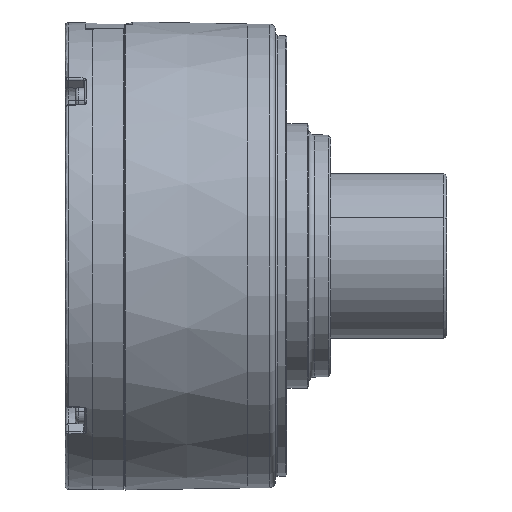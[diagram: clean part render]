
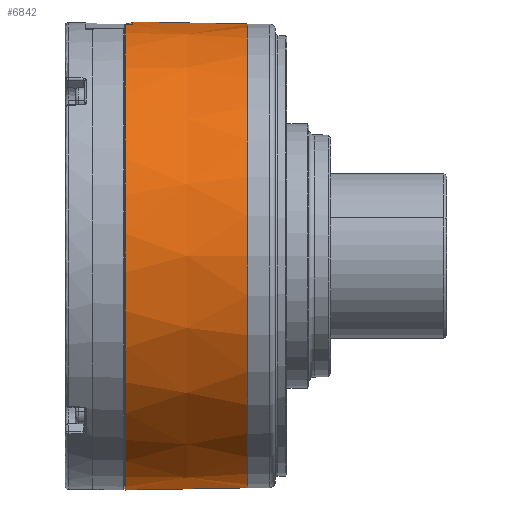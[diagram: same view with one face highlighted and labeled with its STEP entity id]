
A CAD part, left-side view. The second image highlights one B-rep face of the part: STEP entity #6842.
In plain terms, the highlighted conical face has half-angle 1 degrees and reference radius 42.104 mm.
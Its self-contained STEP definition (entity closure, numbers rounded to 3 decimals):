
#145 = ORIENTED_EDGE ( 'NONE', *, *, #9584, .F. ) ;
#301 = VERTEX_POINT ( 'NONE', #3439 ) ;
#424 = AXIS2_PLACEMENT_3D ( 'NONE', #11863, #8682, #9770 ) ;
#497 = CARTESIAN_POINT ( 'NONE',  ( 0., 15.1, 0. ) ) ;
#631 = DIRECTION ( 'NONE',  ( 0., -1., 0. ) ) ;
#705 = CIRCLE ( 'NONE', #2197, 42.469 ) ;
#1613 = CARTESIAN_POINT ( 'NONE',  ( -6., 36.921, 42.059 ) ) ;
#2197 = AXIS2_PLACEMENT_3D ( 'NONE', #7125, #13689, #11486 ) ;
#2437 = CARTESIAN_POINT ( 'NONE',  ( 0., 15.1, -42.104 ) ) ;
#2625 = VERTEX_POINT ( 'NONE', #5466 ) ;
#3439 = CARTESIAN_POINT ( 'NONE',  ( 0., 37.303, -42.491 ) ) ;
#3505 = B_SPLINE_CURVE_WITH_KNOTS ( 'NONE', 3,
 ( #4855, #12179, #1613, #5879, #3708, #11157, #12309 ),
 .UNSPECIFIED., .F., .F.,
 ( 4, 3, 4 ),
 ( 0.022, 0.023, 0.024 ),
 .UNSPECIFIED. ) ;
#3708 = CARTESIAN_POINT ( 'NONE',  ( -6., 36.487, 42.051 ) ) ;
#3976 = DIRECTION ( 'NONE',  ( 0., 0., 1. ) ) ;
#4855 = CARTESIAN_POINT ( 'NONE',  ( -6., 37.303, 42.066 ) ) ;
#5046 = CARTESIAN_POINT ( 'NONE',  ( -6., 36., 42.043 ) ) ;
#5077 = CARTESIAN_POINT ( 'NONE',  ( 0., 15.1, 0. ) ) ;
#5190 = CARTESIAN_POINT ( 'NONE',  ( 0., 15.1, 42.104 ) ) ;
#5466 = CARTESIAN_POINT ( 'NONE',  ( 0., 36., 42.469 ) ) ;
#5678 = LINE ( 'NONE', #8873, #12520 ) ;
#5879 = CARTESIAN_POINT ( 'NONE',  ( -6., 36.73, 42.055 ) ) ;
#6332 = EDGE_CURVE ( 'NONE', #12477, #301, #5678, .T. ) ;
#6842 = ADVANCED_FACE ( 'NONE', ( #9166 ), #9501, .T. ) ;
#6937 = ORIENTED_EDGE ( 'NONE', *, *, #13128, .T. ) ;
#7121 = AXIS2_PLACEMENT_3D ( 'NONE', #5077, #10363, #3976 ) ;
#7125 = CARTESIAN_POINT ( 'NONE',  ( 0., 36., 0. ) ) ;
#7930 = CIRCLE ( 'NONE', #10704, 42.104 ) ;
#8029 = DIRECTION ( 'NONE',  ( 0., 0., -1. ) ) ;
#8465 = LINE ( 'NONE', #5190, #10991 ) ;
#8682 = DIRECTION ( 'NONE',  ( 0., -1., 0. ) ) ;
#8873 = CARTESIAN_POINT ( 'NONE',  ( 0., 15.1, -42.104 ) ) ;
#8932 = CARTESIAN_POINT ( 'NONE',  ( -6., 37.303, 42.066 ) ) ;
#9166 = FACE_OUTER_BOUND ( 'NONE', #9318, .T. ) ;
#9318 = EDGE_LOOP ( 'NONE', ( #11978, #145, #9698, #6937, #9888, #12037 ) ) ;
#9501 = CONICAL_SURFACE ( 'NONE', #7121, 42.104, 0.017 ) ;
#9521 = CIRCLE ( 'NONE', #424, 42.491 ) ;
#9584 = EDGE_CURVE ( 'NONE', #12461, #12477, #7930, .T. ) ;
#9698 = ORIENTED_EDGE ( 'NONE', *, *, #13185, .T. ) ;
#9770 = DIRECTION ( 'NONE',  ( 0., 0., -1. ) ) ;
#9888 = ORIENTED_EDGE ( 'NONE', *, *, #10585, .F. ) ;
#9909 = DIRECTION ( 'NONE',  ( 0., 1., -0.017 ) ) ;
#10183 = VERTEX_POINT ( 'NONE', #5046 ) ;
#10310 = EDGE_CURVE ( 'NONE', #11593, #301, #9521, .T. ) ;
#10363 = DIRECTION ( 'NONE',  ( 0., 1., 0. ) ) ;
#10585 = EDGE_CURVE ( 'NONE', #11593, #10183, #3505, .T. ) ;
#10704 = AXIS2_PLACEMENT_3D ( 'NONE', #497, #631, #8029 ) ;
#10991 = VECTOR ( 'NONE', #12528, 1000. ) ;
#11157 = CARTESIAN_POINT ( 'NONE',  ( -6., 36.243, 42.047 ) ) ;
#11486 = DIRECTION ( 'NONE',  ( 0., 0., 1. ) ) ;
#11593 = VERTEX_POINT ( 'NONE', #8932 ) ;
#11863 = CARTESIAN_POINT ( 'NONE',  ( 0., 37.303, 0. ) ) ;
#11978 = ORIENTED_EDGE ( 'NONE', *, *, #6332, .F. ) ;
#12037 = ORIENTED_EDGE ( 'NONE', *, *, #10310, .T. ) ;
#12179 = CARTESIAN_POINT ( 'NONE',  ( -6., 37.112, 42.062 ) ) ;
#12309 = CARTESIAN_POINT ( 'NONE',  ( -6., 36., 42.043 ) ) ;
#12461 = VERTEX_POINT ( 'NONE', #12814 ) ;
#12477 = VERTEX_POINT ( 'NONE', #2437 ) ;
#12520 = VECTOR ( 'NONE', #9909, 1000. ) ;
#12528 = DIRECTION ( 'NONE',  ( 0., 1., 0.017 ) ) ;
#12814 = CARTESIAN_POINT ( 'NONE',  ( 0., 15.1, 42.104 ) ) ;
#13128 = EDGE_CURVE ( 'NONE', #2625, #10183, #705, .T. ) ;
#13185 = EDGE_CURVE ( 'NONE', #12461, #2625, #8465, .T. ) ;
#13689 = DIRECTION ( 'NONE',  ( 0., -1., 0. ) ) ;
